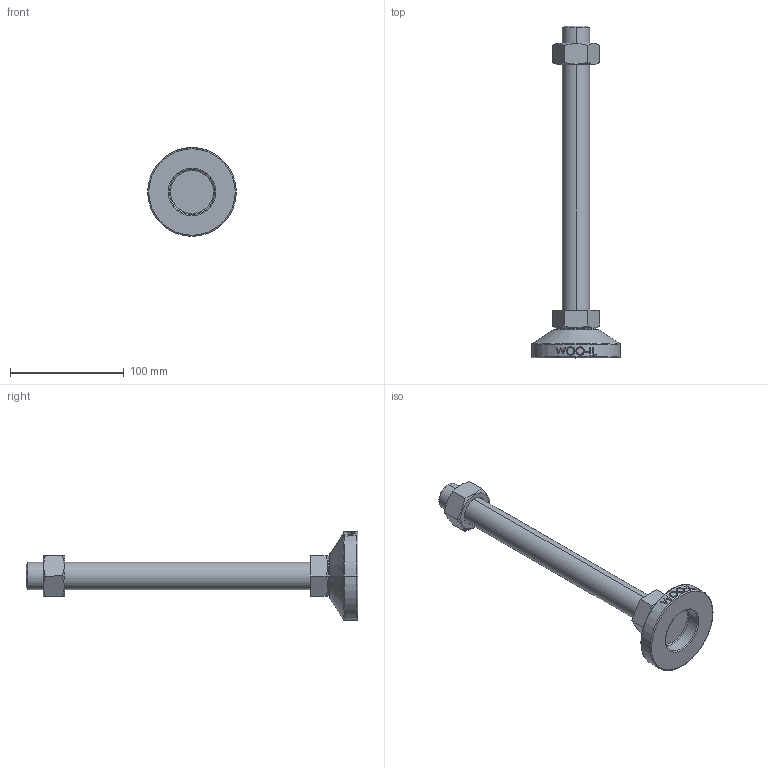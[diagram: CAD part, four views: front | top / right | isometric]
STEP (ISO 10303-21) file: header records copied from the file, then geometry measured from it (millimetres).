
FILE_DESCRIPTION (( 'STEP AP214' ), '1' );
FILE_NAME ('MF78-M24-250.step', '2021-02-03T08:22:35', ( '' ), ( '' ), 'SwSTEP 2.0', 'SolidWorks 2019', '' );
FILE_SCHEMA (( 'AUTOMOTIVE_DESIGN' ));
Length unit declared in the file: millimetre
Products named in the file (2): MF78-M24-250
Bounding box: 78 x 292 x 78 mm (x, y, z)
Volume: 223201.2 mm3; surface area: 42564.3 mm2
Topology: 3 solids, 3 shells, 106 faces, 243 edges, 154 vertices
Faces by surface type: plane 48, cylinder 18, bspline 16, cone 14, torus 10
Entity records: 4556 total; most frequent: CARTESIAN_POINT 2213, ORIENTED_EDGE 486, DIRECTION 439, EDGE_CURVE 243, AXIS2_PLACEMENT_3D 170, VERTEX_POINT 154, EDGE_LOOP 119, ADVANCED_FACE 106
